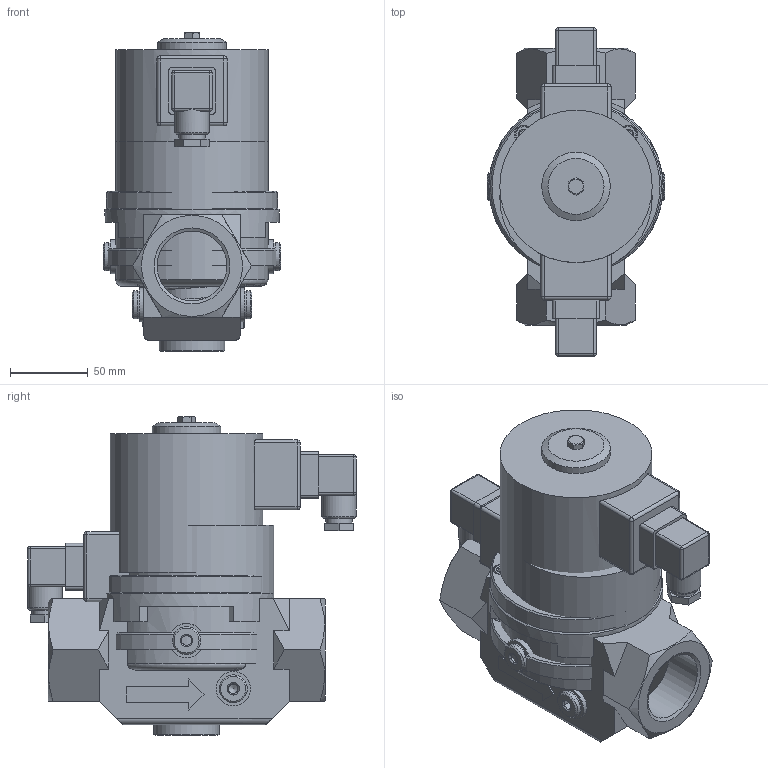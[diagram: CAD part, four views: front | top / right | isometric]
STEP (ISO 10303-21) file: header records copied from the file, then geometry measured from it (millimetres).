
FILE_DESCRIPTION( ( 'Unknown' ), '1' );
FILE_NAME( 'D:/Wyroby/Widoki gabarytowe/Zawory ZEA/ZEA_40/ZEA_40.stp', 'Unknown', ( 'Unknown' ), ( 'Unknown' ), 'XStep 1.0', 'Unknown', ' ' );
FILE_SCHEMA( ( 'CONFIG_CONTROL_DESIGN' ) );
Length unit declared in the file: millimetre
Products named in the file (42): Wa_031_01_04; Wa_031_01_03; Wa_020_01_01z_korkami; Wa_020_01_02; Assem1; Wa_026_01_00; Wa_031_01_03bez_ko³ka; Ko³ek6x45; Wa_031_01_01got.; Wa_031_01_05_001got; Wa_031_01_04_001; Wa_031_01_04_002got; Wa_020_01_01_001gotowe; Wa_020_01_02_001zaci從i黎y; Wa_020_01_02_003zaci從i黎a; Wa_020_01_02_002; Wa_031_01_00_012; Wa_031_01_00_010; T-026; K-006got.; Wa_020_01_00_001; Œ-008ImbusM6x16; Wa_031_01_00_005; Œ-006m6x12szeœc.; Wa_031_01_00_003; Wa_031_01_00_006; Oring75x3彡i從.; Wa_020_01_00_002彡i從i黎y30,5; Wa_020_01_04; Wa_031_01_00_007; Wa_031_01_00_008; Cewka_40-65
Bounding box: 114 x 211 x 205 mm (x, y, z)
Volume: 4091369 mm3; surface area: 1003071.7 mm2
Topology: 120 solids, 120 shells, 2081 faces, 4734 edges, 3053 vertices
Faces by surface type: plane 1092, cylinder 566, cone 358, torus 37, sphere 25, bspline 3
Full cylindrical faces by diameter (mm): 2 x5, 2.1 x8, 2.5 x10, 4.917 x20, 6 x23, 6.2 x10, 6.5 x3, 6.6 x12, 8 x4, 10 x20, 11 x12, 11.445 x16, 13 x12, 13.8 x12, 14 x3, 17 x6, 18 x24, 20 x4, 20.1 x4, 22 x18, 24.8 x4, 26 x3, 27 x4, 30 x11, 32 x8, 32.2 x8, 32.7 x12, 34.1 x4, 34.6 x8, 34.917 x8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
Entity records: 19097 total; most frequent: CARTESIAN_POINT 4632, DIRECTION 2742, ORIENTED_EDGE 2094, AXIS2_PLACEMENT_3D 1137, EDGE_CURVE 1047, EDGE_LOOP 969, VERTEX_POINT 805, FACE_OUTER_BOUND 753
